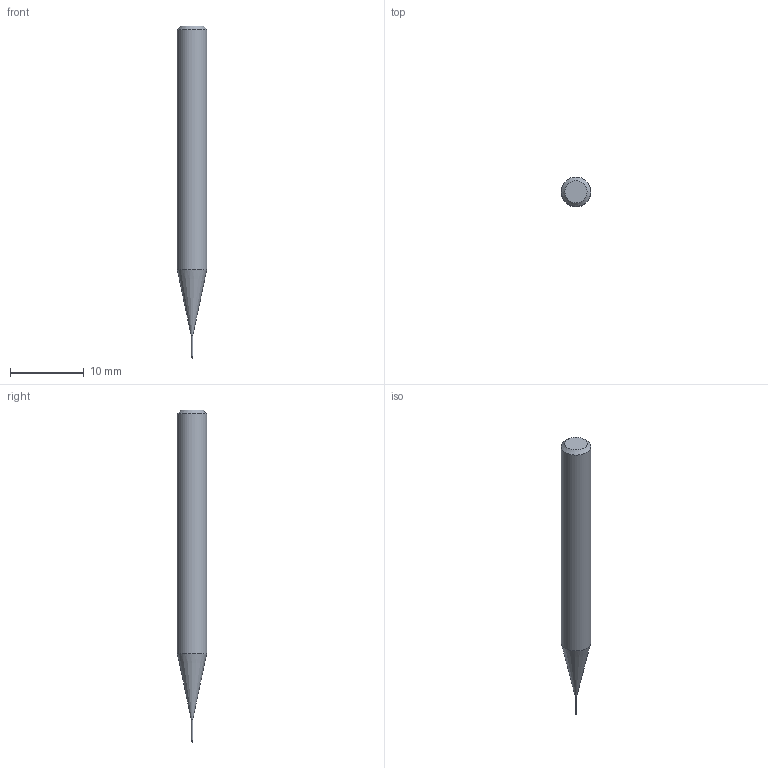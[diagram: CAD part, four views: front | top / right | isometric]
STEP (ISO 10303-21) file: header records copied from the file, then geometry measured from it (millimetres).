
FILE_DESCRIPTION((''),'2;1');
FILE_NAME('C:\Users\nsx150\AppData\Local\Temp\Mastercam 2021\3SYKECWX22\TEMP.step','2021-04-22T09:59:07',(''),(''),'STEP Write','Mastercam 2021 ... CNC Software, Inc.','');
FILE_SCHEMA(('AUTOMOTIVE_DESIGN'));
Length unit declared in the file: millimetre
Products named in the file (1): None
Bounding box: 4 x 4 x 45 mm (x, y, z)
Volume: 452.9 mm3; surface area: 485.5 mm2
Topology: 2 solids, 2 shells, 9 faces, 14 edges, 8 vertices
Faces by surface type: plane 3, cylinder 3, cone 2, sphere 1
Full cylindrical faces by diameter (mm): 0.18 x1, 0.2 x1, 4 x1
Entity records: 211 total; most frequent: DIRECTION 36, CARTESIAN_POINT 25, AXIS2_PLACEMENT_3D 18, ORIENTED_EDGE 14, EDGE_LOOP 14, STYLED_ITEM 12, ADVANCED_FACE 9, FACE_BOUND 8
